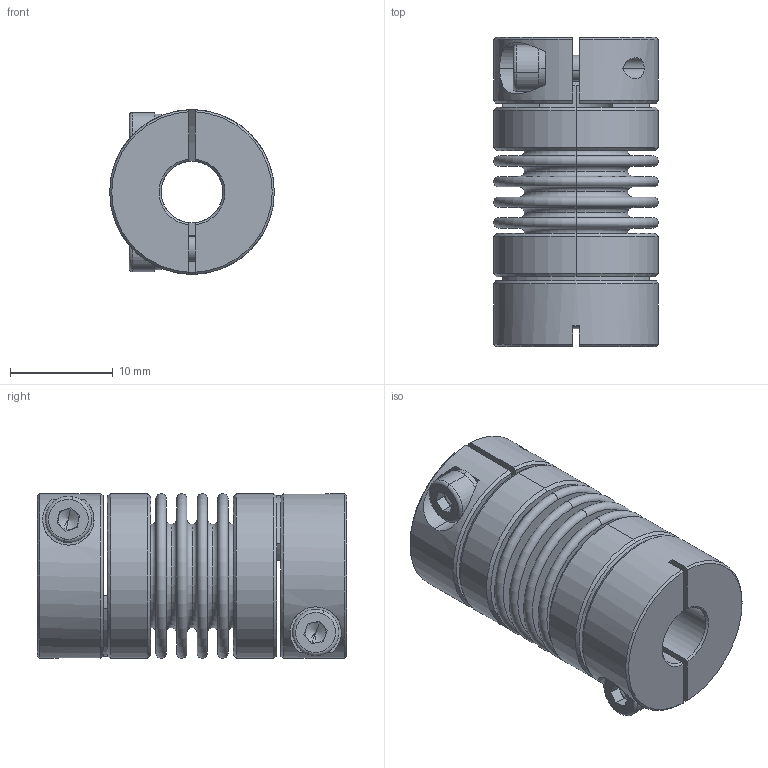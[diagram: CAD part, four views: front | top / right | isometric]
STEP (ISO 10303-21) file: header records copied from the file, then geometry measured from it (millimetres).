
FILE_DESCRIPTION (( 'STEP AP203' ), '1' );
FILE_NAME ('LB-B-D16L30-6-8.STEP', '2021-11-04T01:14:49', ( '' ), ( '' ), 'SwSTEP 2.0', 'SolidWorks 2018', '' );
FILE_SCHEMA (( 'CONFIG_CONTROL_DESIGN' ));
Length unit declared in the file: millimetre
Products named in the file (2): LB-B-D16L30-6-8; 零件1^LB-B-D16L30 波纹管联轴器-组装体
Assembly tree (1 placements, depth 2):
  LB-B-D16L30-6-8
    零件1^LB-B-D16L30 波纹管联轴器-组装体
Bounding box: 16 x 30.04 x 16 mm (x, y, z)
Volume: 2932.8 mm3; surface area: 6404.2 mm2
Topology: 1 solids, 1 shells, 254 faces, 586 edges, 362 vertices
Faces by surface type: plane 86, torus 68, cylinder 66, cone 34
Entity records: 7660 total; most frequent: CARTESIAN_POINT 1472, DIRECTION 1420, ORIENTED_EDGE 1164, AXIS2_PLACEMENT_3D 622, EDGE_CURVE 582, CIRCLE 364, VERTEX_POINT 362, EDGE_LOOP 296
